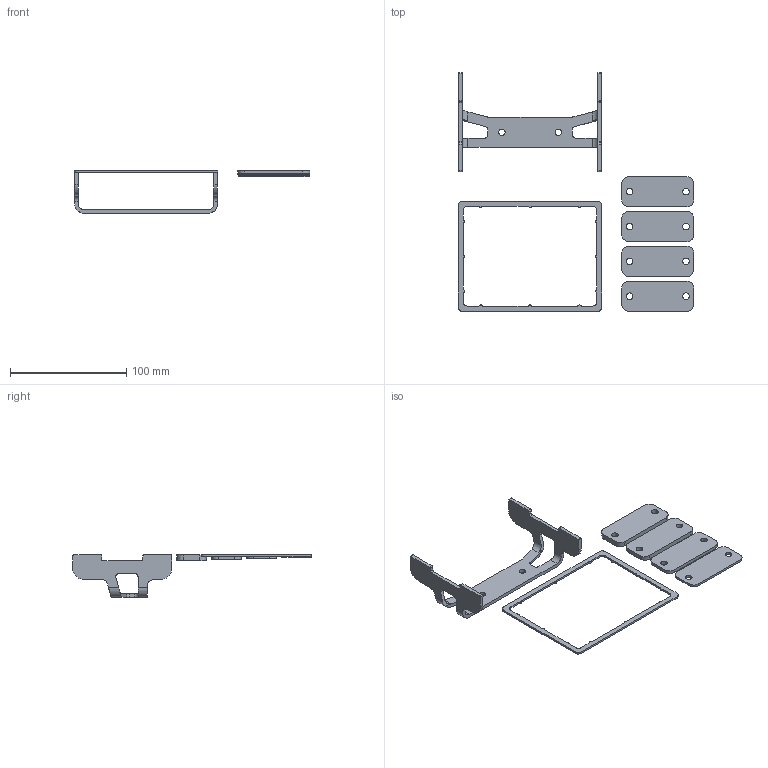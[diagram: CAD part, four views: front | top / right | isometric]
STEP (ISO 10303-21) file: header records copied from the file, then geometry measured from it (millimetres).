
FILE_DESCRIPTION(/* description */ ('STEP AP203'),/* implementation_level */ '2;1');
FILE_NAME(/* name */ 'EC0751',/* time_stamp */ '2024-12-13T10:16:08+01:00',/* author */ ('License CC BY-ND 4.0'),/* organization */ ('CADENAS'),/* preprocessor_version */ 'ST-DEVELOPER v19.3',/* originating_system */ 'PARTsolutions',/* authorisation */ ' ');
FILE_SCHEMA (('CONFIG_CONTROL_DESIGN'));
Length unit declared in the file: millimetre
Products named in the file (7): EC0751; P_MZ_Z_1945_P1; P_MZ_Z_1945_P2; P_MZ_Z_1945_2mm; P_MZ_Z_1945_3mm; P_MZ_Z_1945_4mm; P_MZ_Z_1945_5mm
Assembly tree (6 placements, depth 2):
  EC0751
    P_MZ_Z_1945_P1
    P_MZ_Z_1945_P2
    P_MZ_Z_1945_2mm
    P_MZ_Z_1945_3mm
    P_MZ_Z_1945_4mm
    P_MZ_Z_1945_5mm
Bounding box: 202.9 x 205.5 x 36.5 mm (x, y, z)
Volume: 36324.3 mm3; surface area: 35772.5 mm2
Topology: 6 solids, 6 shells, 297 faces, 808 edges, 522 vertices
Faces by surface type: cylinder 132, plane 111, torus 30, cone 24
Full cylindrical faces by diameter (mm): 5.5 x2
Entity records: 9644 total; most frequent: DIRECTION 1766, CARTESIAN_POINT 1624, ORIENTED_EDGE 1596, EDGE_CURVE 798, AXIS2_PLACEMENT_3D 664, VERTEX_POINT 522, LINE 438, VECTOR 438
